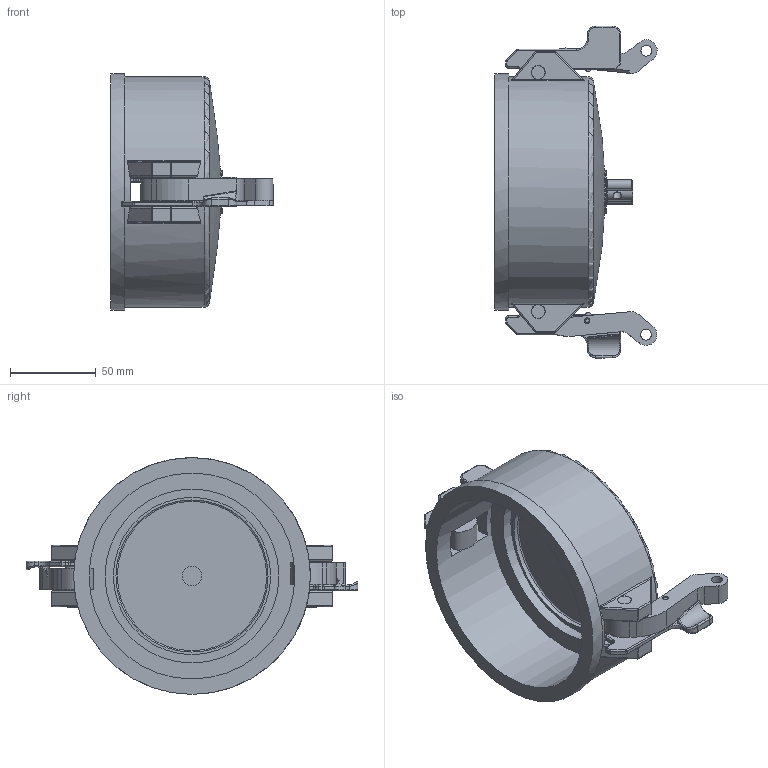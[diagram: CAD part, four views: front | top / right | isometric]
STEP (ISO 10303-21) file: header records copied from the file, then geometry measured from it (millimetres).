
FILE_DESCRIPTION(/* description */ ('Alibre Inc.'),/* implementation_level */ '2;1');
FILE_NAME(/* name */ 'export0',/* time_stamp */ '2016-01-26T13:24:17-05:00',/* author */ (''),/* organization */ (''),/* preprocessor_version */ 'ST-DEVELOPER v14',/* originating_system */ 'Alibre',/* authorisation */ '');
FILE_SCHEMA (('CONFIG_CONTROL_DESIGN'));
Length unit declared in the file: centimetre
Products named in the file (6): ID_1; ID_2; ID_3; ID_4; ID_5
Bounding box: 94.9 x 194.06 x 138.43 mm (x, y, z)
Volume: 345944.9 mm3; surface area: 112770.9 mm2
Topology: 8 solids, 8 shells, 359 faces, 847 edges, 499 vertices
Faces by surface type: cylinder 159, plane 105, torus 54, sphere 21, bspline 16, cone 4
Full cylindrical faces by diameter (mm): 4.775 x1, 6.35 x2, 7.874 x4, 7.925 x4, 8.179 x4, 11.43 x1, 25.4 x1, 88.9 x1, 91.948 x1, 101.6 x1, 120.396 x1, 123.698 x1, 125.222 x1, 134.874 x1, 138.43 x1
Entity records: 9425 total; most frequent: CARTESIAN_POINT 3301, DIRECTION 1143, ORIENTED_EDGE 1074, EDGE_CURVE 537, AXIS2_PLACEMENT_3D 506, VERTEX_POINT 335, EDGE_LOOP 306, FACE_BOUND 306
